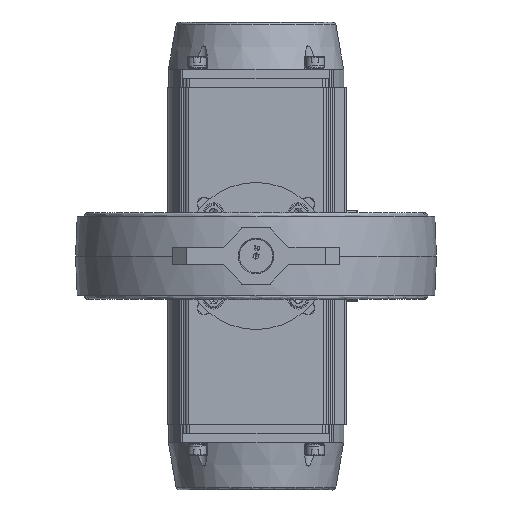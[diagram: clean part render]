
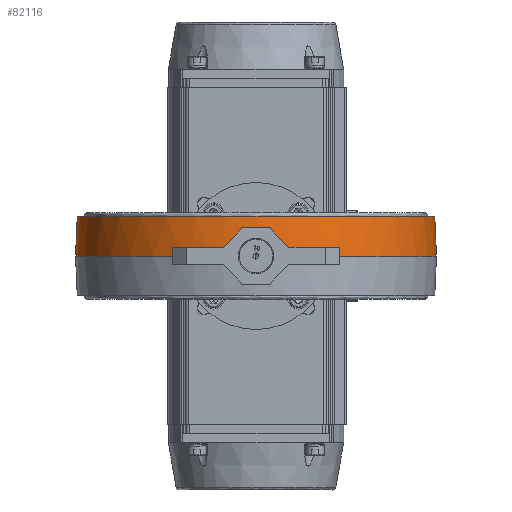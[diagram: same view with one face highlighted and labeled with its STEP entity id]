
A CAD part, front view. The second image highlights one B-rep face of the part: STEP entity #82116.
In plain terms, the highlighted conical face has half-angle 2.545 degrees and reference radius 152 mm.
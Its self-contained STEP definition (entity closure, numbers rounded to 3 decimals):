
#387 = VECTOR ( 'NONE', #85943, 1000. ) ;
#1194 = VERTEX_POINT ( 'NONE', #40825 ) ;
#3029 = DIRECTION ( 'NONE',  ( -1., 0., 0. ) ) ;
#3763 = VERTEX_POINT ( 'NONE', #7004 ) ;
#4000 = DIRECTION ( 'NONE',  ( 0., 0.045, 0.999 ) ) ;
#5508 = DIRECTION ( 'NONE',  ( -1., 0., 0. ) ) ;
#5773 = CARTESIAN_POINT ( 'NONE',  ( -66.494, -138.216, 5.149 ) ) ;
#6047 = VERTEX_POINT ( 'NONE', #52998 ) ;
#6474 = CONICAL_SURFACE ( 'NONE', #7159, 152., 0.044 ) ;
#6509 = CARTESIAN_POINT ( 'NONE',  ( -66.173, -138.622, 0. ) ) ;
#6883 = EDGE_CURVE ( 'NONE', #69388, #3763, #93145, .T. ) ;
#7004 = CARTESIAN_POINT ( 'NONE',  ( 12.202, -151.941, 23. ) ) ;
#7159 = AXIS2_PLACEMENT_3D ( 'NONE', #61522, #69479, #17779 ) ;
#7948 = AXIS2_PLACEMENT_3D ( 'NONE', #43153, #103554, #61235 ) ;
#8845 = ORIENTED_EDGE ( 'NONE', *, *, #48839, .F. ) ;
#8989 = EDGE_CURVE ( 'NONE', #14630, #83185, #91322, .T. ) ;
#12605 = ORIENTED_EDGE ( 'NONE', *, *, #86461, .F. ) ;
#13000 = EDGE_LOOP ( 'NONE', ( #46123, #8845, #96192, #12605, #72078, #76315, #23760, #97093, #101265, #46752, #25741, #38378, #41372, #97742 ) ) ;
#13356 = AXIS2_PLACEMENT_3D ( 'NONE', #98485, #19627, #3029 ) ;
#13921 = LINE ( 'NONE', #30107, #109733 ) ;
#14630 = VERTEX_POINT ( 'NONE', #61935 ) ;
#14987 = CARTESIAN_POINT ( 'NONE',  ( -28.298, -150.562, 7.5 ) ) ;
#15508 = AXIS2_PLACEMENT_3D ( 'NONE', #27503, #27882, #61423 ) ;
#16897 = VECTOR ( 'NONE', #4000, 1000. ) ;
#17779 = DIRECTION ( 'NONE',  ( -1., 0., 0. ) ) ;
#18519 = CARTESIAN_POINT ( 'NONE',  ( 27.702, -150.562, 7.5 ) ) ;
#19126 = B_SPLINE_CURVE_WITH_KNOTS ( 'NONE', 3,
 ( #98616, #5773, #58153, #6509 ),
 .UNSPECIFIED., .F., .F.,
 ( 4, 4 ),
 ( 0., 1. ),
 .UNSPECIFIED. ) ;
#19627 = DIRECTION ( 'NONE',  ( 0., 0., -1. ) ) ;
#21382 = FACE_OUTER_BOUND ( 'NONE', #13000, .T. ) ;
#22466 = VERTEX_POINT ( 'NONE', #37298 ) ;
#23760 = ORIENTED_EDGE ( 'NONE', *, *, #47529, .F. ) ;
#25741 = ORIENTED_EDGE ( 'NONE', *, *, #6883, .F. ) ;
#26424 =( BOUNDED_CURVE ( )  B_SPLINE_CURVE ( 3, ( #32362, #66662, #57958, #14987 ),
 .UNSPECIFIED., .F., .T. ) 
 B_SPLINE_CURVE_WITH_KNOTS ( ( 4, 4 ),
 ( 4.75, 4.852 ),
 .UNSPECIFIED. ) 
 CURVE ( )  GEOMETRIC_REPRESENTATION_ITEM ( )  RATIONAL_B_SPLINE_CURVE ( ( 1., 0.999, 0.999, 1. ) ) 
 REPRESENTATION_ITEM ( '' )  );
#27503 = CARTESIAN_POINT ( 'NONE',  ( -0.298, 0.024, 33.75 ) ) ;
#27882 = DIRECTION ( 'NONE',  ( 0., 0., 1. ) ) ;
#30107 = CARTESIAN_POINT ( 'NONE',  ( 151.702, 0.024, 33.75 ) ) ;
#30124 = LINE ( 'NONE', #103693, #387 ) ;
#30492 = DIRECTION ( 'NONE',  ( 0.044, 0., -0.999 ) ) ;
#30932 = DIRECTION ( 'NONE',  ( -1., 0., 0. ) ) ;
#32362 = CARTESIAN_POINT ( 'NONE',  ( -12.798, -151.941, 23. ) ) ;
#34419 = CIRCLE ( 'NONE', #13356, 153.167 ) ;
#36700 = CARTESIAN_POINT ( 'NONE',  ( -12.798, -151.896, 24. ) ) ;
#37298 = CARTESIAN_POINT ( 'NONE',  ( 151.702, 0.024, 33.75 ) ) ;
#38179 = AXIS2_PLACEMENT_3D ( 'NONE', #93555, #93176, #66735 ) ;
#38378 = ORIENTED_EDGE ( 'NONE', *, *, #105590, .F. ) ;
#38492 = CARTESIAN_POINT ( 'NONE',  ( 12.202, -151.896, 24. ) ) ;
#39160 = CIRCLE ( 'NONE', #15508, 152. ) ;
#39659 = AXIS2_PLACEMENT_3D ( 'NONE', #40319, #74267, #30932 ) ;
#39798 = VERTEX_POINT ( 'NONE', #58481 ) ;
#40319 = CARTESIAN_POINT ( 'NONE',  ( -0.298, 0.024, 24. ) ) ;
#40825 = CARTESIAN_POINT ( 'NONE',  ( -66.173, -138.622, 0. ) ) ;
#41232 = VECTOR ( 'NONE', #77035, 1000. ) ;
#41372 = ORIENTED_EDGE ( 'NONE', *, *, #59869, .F. ) ;
#42540 = VERTEX_POINT ( 'NONE', #57171 ) ;
#43153 = CARTESIAN_POINT ( 'NONE',  ( -0.298, 0.024, 7.5 ) ) ;
#44412 = EDGE_CURVE ( 'NONE', #94116, #42540, #30124, .T. ) ;
#46123 = ORIENTED_EDGE ( 'NONE', *, *, #107682, .F. ) ;
#46752 = ORIENTED_EDGE ( 'NONE', *, *, #53471, .F. ) ;
#47529 = EDGE_CURVE ( 'NONE', #90707, #14630, #26424, .T. ) ;
#48839 = EDGE_CURVE ( 'NONE', #94116, #22466, #39160, .T. ) ;
#49063 = CIRCLE ( 'NONE', #49214, 153.5 ) ;
#49214 = AXIS2_PLACEMENT_3D ( 'NONE', #82072, #64708, #5508 ) ;
#52998 = CARTESIAN_POINT ( 'NONE',  ( -12.798, -151.896, 24. ) ) ;
#53471 = EDGE_CURVE ( 'NONE', #3763, #104991, #88493, .T. ) ;
#54868 = CARTESIAN_POINT ( 'NONE',  ( 12.202, -151.941, 23. ) ) ;
#55033 = CARTESIAN_POINT ( 'NONE',  ( 27.702, -150.562, 7.5 ) ) ;
#57171 = CARTESIAN_POINT ( 'NONE',  ( -153.798, 0.024, 0. ) ) ;
#57958 = CARTESIAN_POINT ( 'NONE',  ( -23.158, -151.285, 12.641 ) ) ;
#58153 = CARTESIAN_POINT ( 'NONE',  ( -66.331, -138.417, 2.649 ) ) ;
#58481 = CARTESIAN_POINT ( 'NONE',  ( 65.576, -138.622, 0. ) ) ;
#58531 = EDGE_CURVE ( 'NONE', #6047, #90707, #87156, .T. ) ;
#59123 = VERTEX_POINT ( 'NONE', #105602 ) ;
#59869 = EDGE_CURVE ( 'NONE', #39798, #65112, #86459, .T. ) ;
#61235 = DIRECTION ( 'NONE',  ( -1., 0., 0. ) ) ;
#61423 = DIRECTION ( 'NONE',  ( -1., 0., 0. ) ) ;
#61522 = CARTESIAN_POINT ( 'NONE',  ( -0.298, 0.024, 33.75 ) ) ;
#61935 = CARTESIAN_POINT ( 'NONE',  ( -28.298, -150.562, 7.5 ) ) ;
#62974 = CARTESIAN_POINT ( 'NONE',  ( -12.798, -151.941, 23. ) ) ;
#64708 = DIRECTION ( 'NONE',  ( 0., 0., -1. ) ) ;
#64958 = CARTESIAN_POINT ( 'NONE',  ( 65.734, -138.417, 2.649 ) ) ;
#65112 = VERTEX_POINT ( 'NONE', #72570 ) ;
#66662 = CARTESIAN_POINT ( 'NONE',  ( -17.986, -151.745, 17.812 ) ) ;
#66735 = DIRECTION ( 'NONE',  ( -1., 0., 0. ) ) ;
#69388 = VERTEX_POINT ( 'NONE', #55033 ) ;
#69479 = DIRECTION ( 'NONE',  ( 0., 0., -1. ) ) ;
#72078 = ORIENTED_EDGE ( 'NONE', *, *, #91405, .F. ) ;
#72570 = CARTESIAN_POINT ( 'NONE',  ( 66.065, -138.019, 7.5 ) ) ;
#74267 = DIRECTION ( 'NONE',  ( 0., 0., -1. ) ) ;
#76315 = ORIENTED_EDGE ( 'NONE', *, *, #8989, .F. ) ;
#77035 = DIRECTION ( 'NONE',  ( 0., -0.045, -0.999 ) ) ;
#78002 = CIRCLE ( 'NONE', #38179, 153.5 ) ;
#78129 = CARTESIAN_POINT ( 'NONE',  ( 12.202, -151.941, 23. ) ) ;
#79644 = CARTESIAN_POINT ( 'NONE',  ( 65.576, -138.622, 0. ) ) ;
#82072 = CARTESIAN_POINT ( 'NONE',  ( -0.298, 0.024, 0. ) ) ;
#82116 = ADVANCED_FACE ( 'NONE', ( #21382 ), #6474, .T. ) ;
#82215 = CARTESIAN_POINT ( 'NONE',  ( -152.298, 0.024, 33.75 ) ) ;
#82263 = EDGE_CURVE ( 'NONE', #104991, #6047, #107694, .T. ) ;
#82432 = EDGE_CURVE ( 'NONE', #59123, #39798, #78002, .T. ) ;
#83185 = VERTEX_POINT ( 'NONE', #106439 ) ;
#85943 = DIRECTION ( 'NONE',  ( -0.044, 0., -0.999 ) ) ;
#86078 = CARTESIAN_POINT ( 'NONE',  ( 17.389, -151.745, 17.812 ) ) ;
#86459 = B_SPLINE_CURVE_WITH_KNOTS ( 'NONE', 3,
 ( #79644, #64958, #99335, #88371 ),
 .UNSPECIFIED., .F., .F.,
 ( 4, 4 ),
 ( 0., 1. ),
 .UNSPECIFIED. ) ;
#86461 = EDGE_CURVE ( 'NONE', #1194, #42540, #49063, .T. ) ;
#87156 = LINE ( 'NONE', #36700, #41232 ) ;
#88371 = CARTESIAN_POINT ( 'NONE',  ( 66.065, -138.019, 7.5 ) ) ;
#88493 = LINE ( 'NONE', #54868, #16897 ) ;
#90707 = VERTEX_POINT ( 'NONE', #62974 ) ;
#91322 = CIRCLE ( 'NONE', #7948, 153.167 ) ;
#91405 = EDGE_CURVE ( 'NONE', #83185, #1194, #19126, .T. ) ;
#93145 =( BOUNDED_CURVE ( )  B_SPLINE_CURVE ( 3, ( #18519, #95919, #86078, #78129 ),
 .UNSPECIFIED., .F., .F. ) 
 B_SPLINE_CURVE_WITH_KNOTS ( ( 4, 4 ),
 ( 1.431, 1.533 ),
 .UNSPECIFIED. ) 
 CURVE ( )  GEOMETRIC_REPRESENTATION_ITEM ( )  RATIONAL_B_SPLINE_CURVE ( ( 1., 0.999, 0.999, 1. ) ) 
 REPRESENTATION_ITEM ( '' )  );
#93176 = DIRECTION ( 'NONE',  ( 0., 0., -1. ) ) ;
#93555 = CARTESIAN_POINT ( 'NONE',  ( -0.298, 0.024, 0. ) ) ;
#94116 = VERTEX_POINT ( 'NONE', #82215 ) ;
#95919 = CARTESIAN_POINT ( 'NONE',  ( 22.561, -151.285, 12.641 ) ) ;
#96192 = ORIENTED_EDGE ( 'NONE', *, *, #44412, .T. ) ;
#97093 = ORIENTED_EDGE ( 'NONE', *, *, #58531, .F. ) ;
#97742 = ORIENTED_EDGE ( 'NONE', *, *, #82432, .F. ) ;
#98485 = CARTESIAN_POINT ( 'NONE',  ( -0.298, 0.024, 7.5 ) ) ;
#98616 = CARTESIAN_POINT ( 'NONE',  ( -66.662, -138.019, 7.5 ) ) ;
#99335 = CARTESIAN_POINT ( 'NONE',  ( 65.897, -138.216, 5.149 ) ) ;
#101265 = ORIENTED_EDGE ( 'NONE', *, *, #82263, .F. ) ;
#103554 = DIRECTION ( 'NONE',  ( 0., 0., -1. ) ) ;
#103693 = CARTESIAN_POINT ( 'NONE',  ( -152.298, 0.024, 33.75 ) ) ;
#104991 = VERTEX_POINT ( 'NONE', #38492 ) ;
#105590 = EDGE_CURVE ( 'NONE', #65112, #69388, #34419, .T. ) ;
#105602 = CARTESIAN_POINT ( 'NONE',  ( 153.202, 0.024, 0. ) ) ;
#106439 = CARTESIAN_POINT ( 'NONE',  ( -66.662, -138.019, 7.5 ) ) ;
#107682 = EDGE_CURVE ( 'NONE', #22466, #59123, #13921, .T. ) ;
#107694 = CIRCLE ( 'NONE', #39659, 152.433 ) ;
#109733 = VECTOR ( 'NONE', #30492, 1000. ) ;
